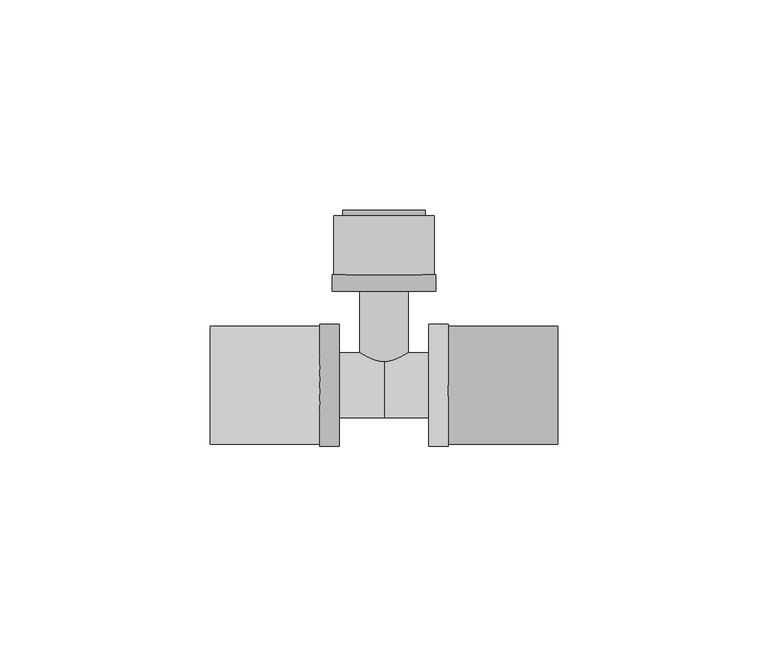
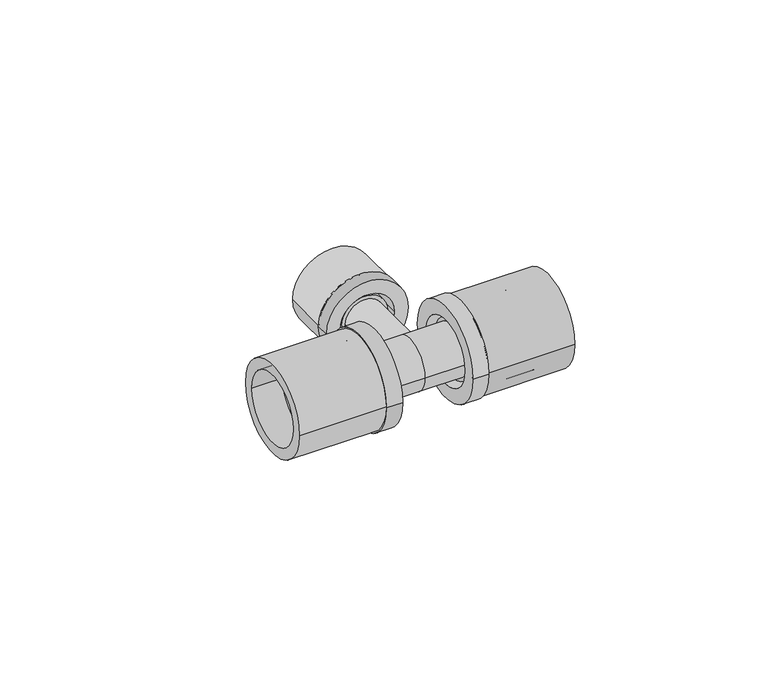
"""IFC4 building model written with IfcOpenShell, lengths in millimetres: pipe fitting geometry, FASTLOC_T-piece_LX : FSL T-Piece LX CZ."""

from ifc_helpers import new_model, si_unit, point, frame, origin, origin_2d, place, context, project, spatial, polyline, circle_curve, trimmed, segment, composite_curve, outline, extrude, source, transform, mapped, element, save
from ifc_brep_helpers import plane_surface, cylinder_surface, revolved_surface, advanced_brep


def pipe_fitting_5ae7c970(model_context):
    return source(origin(), model_context, "Body", "SolidModel", [
        extrude(outline(composite_curve([segment(trimmed(circle_curve(origin_2d(), 14.0), [point((-14.0, 0.0))], [point((14.0, 0.0))], False, "CARTESIAN"), True, "CONTINUOUS"), segment(trimmed(circle_curve(origin_2d(), 14.0), [point((14.0, 0.0))], [point((-14.0, 0.0))], False, "CARTESIAN"), True, "CONTINUOUS")], self_intersect=False), holes=[composite_curve([segment(trimmed(circle_curve(origin_2d(), 10.7), [point((-10.7, 0.0))], [point((10.7, 0.0))], True, "CARTESIAN"), True, "CONTINUOUS"), segment(trimmed(circle_curve(origin_2d(), 10.7), [point((10.7, 0.0))], [point((-10.7, 0.0))], True, "CARTESIAN"), True, "CONTINUOUS")], self_intersect=False)]), frame((15.3, 0.0, 0.0), z_axis=(1.0, 0.0, 0.0), x_axis=(0.0, 1.0, 0.0)), (0.0, 0.0, 1.0), 26.0),
        advanced_brep(
        [(15.3, 14.5, 0.0), (15.3, -14.5, 0.0), (10.6, -14.5, 0.0), (10.6, 14.5, 0.0), (32.3, 11.85, 0.0), (32.3, -11.85, 0.0), (15.3, -11.85, 0.0), (15.3, 11.85, 0.0), (10.6, 10.15, 0.0), (10.6, -10.15, 0.0), (32.3, -10.15, 0.0), (32.3, 10.15, 0.0)],
        [
            (0, 1, circle_curve(frame((15.3, 0.0, 0.0), z_axis=(-1.0, 0.0, 0.0), x_axis=(0.0, -1.0, 0.0)), 14.5)),
            (1, 2),
            (2, 3, circle_curve(frame((10.6, 0.0, 0.0), z_axis=(1.0, 0.0, 0.0), x_axis=(0.0, -1.0, 0.0)), 14.5)),
            (3, 0),
            (4, 5, circle_curve(frame((32.3, 0.0, 0.0), z_axis=(-1.0, 0.0, 0.0), x_axis=(0.0, -1.0, 0.0)), 11.85)),
            (5, 6),
            (6, 7, circle_curve(frame((15.3, 0.0, 0.0), z_axis=(1.0, 0.0, 0.0), x_axis=(0.0, -1.0, 0.0)), 11.85)),
            (7, 4),
            (8, 9, circle_curve(frame((10.6, 0.0, 0.0), z_axis=(-1.0, 0.0, 0.0), x_axis=(0.0, -1.0, 0.0)), 10.15)),
            (9, 10),
            (10, 11, circle_curve(frame((32.3, 0.0, 0.0), z_axis=(1.0, 0.0, 0.0), x_axis=(0.0, -1.0, 0.0)), 10.15)),
            (11, 8),
            (1, 0, circle_curve(frame((15.3, 0.0, 0.0), z_axis=(-1.0, 0.0, 0.0), x_axis=(0.0, 1.0, 0.0)), 14.5)),
            (3, 2, circle_curve(frame((10.6, 0.0, 0.0), z_axis=(1.0, 0.0, 0.0), x_axis=(0.0, 1.0, 0.0)), 14.5)),
            (6, 7, circle_curve(frame((15.3, 0.0, 0.0), z_axis=(-1.0, 0.0, 0.0), x_axis=(0.0, 1.0, 0.0)), 11.85)),
            (5, 4, circle_curve(frame((32.3, 0.0, 0.0), z_axis=(-1.0, 0.0, 0.0), x_axis=(0.0, 1.0, 0.0)), 11.85)),
            (10, 11, circle_curve(frame((32.3, 0.0, 0.0), z_axis=(-1.0, 0.0, 0.0), x_axis=(0.0, 1.0, 0.0)), 10.15)),
            (9, 8, circle_curve(frame((10.6, 0.0, 0.0), z_axis=(-1.0, 0.0, 0.0), x_axis=(0.0, 1.0, 0.0)), 10.15)),
        ],
        [
            cylinder_surface(frame((10.6, 0.0, 0.0), z_axis=(1.0, 0.0, 0.0), x_axis=(0.0, -1.0, 0.0)), 14.5),
            cylinder_surface(frame((10.6, 0.0, 0.0), z_axis=(1.0, 0.0, 0.0), x_axis=(0.0, -1.0, 0.0)), 11.85),
            revolved_surface(polyline([(32.3, -10.15, 0.0), (10.6, -10.15, 0.0)]), (10.6, 0.0, 0.0), (1.0, 0.0, 0.0)),
            cylinder_surface(frame((10.6, 0.0, 0.0), z_axis=(1.0, 0.0, 0.0), x_axis=(0.0, 1.0, 0.0)), 14.5),
            plane_surface(frame((15.3, 0.0, 0.0), z_axis=(1.0, 0.0, 0.0), x_axis=(0.0, 1.0, 0.0))),
            cylinder_surface(frame((10.6, 0.0, 0.0), z_axis=(1.0, 0.0, 0.0), x_axis=(0.0, 1.0, 0.0)), 11.85),
            plane_surface(frame((32.3, 0.0, 0.0), z_axis=(1.0, 0.0, 0.0), x_axis=(0.0, 1.0, 0.0))),
            revolved_surface(polyline([(32.3, 10.15, 0.0), (10.6, 10.15, 0.0)]), (10.6, 0.0, 0.0), (1.0, 0.0, 0.0)),
            plane_surface(frame((10.6, 0.0, 0.0), z_axis=(-1.0, 0.0, 0.0), x_axis=(0.0, 1.0, 0.0))),
        ],
        [
            (0, [[1, 2, 3, 4]]),
            (1, [[5, 6, 7, 8]]),
            (2, [[9, 10, 11, 12]]),
            (3, [[13, -4, 14, -2]]),
            (4, [[-13, -1], [15, -7]]),
            (5, [[16, -8, -15, -6]]),
            (6, [[-16, -5], [17, -11]]),
            (7, [[18, -12, -17, -10]]),
            (8, [[-14, -3], [-18, -9]]),
        ],
    ),
        extrude(outline(composite_curve([segment(trimmed(circle_curve(origin_2d(), 14.0), [point((14.0, 0.0))], [point((-14.0, 0.0))], False, "CARTESIAN"), True, "CONTINUOUS"), segment(trimmed(circle_curve(origin_2d(), 14.0), [point((-14.0, 0.0))], [point((14.0, 0.0))], False, "CARTESIAN"), True, "CONTINUOUS")], self_intersect=False), holes=[composite_curve([segment(trimmed(circle_curve(origin_2d(), 10.7), [point((10.7, 0.0))], [point((-10.7, 0.0))], True, "CARTESIAN"), True, "CONTINUOUS"), segment(trimmed(circle_curve(origin_2d(), 10.7), [point((-10.7, 0.0))], [point((10.7, 0.0))], True, "CARTESIAN"), True, "CONTINUOUS")], self_intersect=False)]), frame((-41.3, 0.0, 0.0), z_axis=(1.0, 0.0, 0.0), x_axis=(0.0, 1.0, 0.0)), (0.0, 0.0, 1.0), 26.0),
        advanced_brep(
        [(-15.3, -14.5, 0.0), (-15.3, 14.5, 0.0), (-10.6, 14.5, 0.0), (-10.6, -14.5, 0.0), (-32.3, -11.85, 0.0), (-32.3, 11.85, 0.0), (-15.3, 11.85, 0.0), (-15.3, -11.85, 0.0), (-10.6, -10.15, 0.0), (-10.6, 10.15, 0.0), (-32.3, 10.15, 0.0), (-32.3, -10.15, 0.0)],
        [
            (0, 1, circle_curve(frame((-15.3, 0.0, 0.0), z_axis=(1.0, 0.0, 0.0), x_axis=(0.0, 1.0, 0.0)), 14.5)),
            (1, 2),
            (2, 3, circle_curve(frame((-10.6, 0.0, 0.0), z_axis=(-1.0, 0.0, 0.0), x_axis=(0.0, 1.0, 0.0)), 14.5)),
            (3, 0),
            (4, 5, circle_curve(frame((-32.3, 0.0, 0.0), z_axis=(1.0, 0.0, 0.0), x_axis=(0.0, 1.0, 0.0)), 11.85)),
            (5, 6),
            (6, 7, circle_curve(frame((-15.3, 0.0, 0.0), z_axis=(-1.0, 0.0, 0.0), x_axis=(0.0, 1.0, 0.0)), 11.85)),
            (7, 4),
            (8, 9, circle_curve(frame((-10.6, 0.0, 0.0), z_axis=(1.0, 0.0, 0.0), x_axis=(0.0, 1.0, 0.0)), 10.15)),
            (9, 10),
            (10, 11, circle_curve(frame((-32.3, 0.0, 0.0), z_axis=(-1.0, 0.0, 0.0), x_axis=(0.0, 1.0, 0.0)), 10.15)),
            (11, 8),
            (1, 0, circle_curve(frame((-15.3, 0.0, 0.0), z_axis=(1.0, 0.0, 0.0), x_axis=(0.0, -1.0, 0.0)), 14.5)),
            (3, 2, circle_curve(frame((-10.6, 0.0, 0.0), z_axis=(-1.0, 0.0, 0.0), x_axis=(0.0, -1.0, 0.0)), 14.5)),
            (6, 7, circle_curve(frame((-15.3, 0.0, 0.0), z_axis=(1.0, 0.0, 0.0), x_axis=(0.0, -1.0, 0.0)), 11.85)),
            (5, 4, circle_curve(frame((-32.3, 0.0, 0.0), z_axis=(1.0, 0.0, 0.0), x_axis=(0.0, -1.0, 0.0)), 11.85)),
            (10, 11, circle_curve(frame((-32.3, 0.0, 0.0), z_axis=(1.0, 0.0, 0.0), x_axis=(0.0, -1.0, 0.0)), 10.15)),
            (9, 8, circle_curve(frame((-10.6, 0.0, 0.0), z_axis=(1.0, 0.0, 0.0), x_axis=(0.0, -1.0, 0.0)), 10.15)),
        ],
        [
            cylinder_surface(frame((-10.6, 0.0, 0.0), z_axis=(-1.0, 0.0, 0.0), x_axis=(0.0, 1.0, 0.0)), 14.5),
            cylinder_surface(frame((-10.6, 0.0, 0.0), z_axis=(-1.0, 0.0, 0.0), x_axis=(0.0, 1.0, 0.0)), 11.85),
            revolved_surface(polyline([(-32.3, 10.15, 0.0), (-10.6, 10.15, 0.0)]), (-10.6, 0.0, 0.0), (-1.0, 0.0, 0.0)),
            cylinder_surface(frame((-10.6, 0.0, 0.0), z_axis=(-1.0, 0.0, 0.0), x_axis=(0.0, -1.0, 0.0)), 14.5),
            plane_surface(frame((-15.3, 0.0, 0.0), z_axis=(-1.0, 0.0, 0.0), x_axis=(0.0, -1.0, 0.0))),
            cylinder_surface(frame((-10.6, 0.0, 0.0), z_axis=(-1.0, 0.0, 0.0), x_axis=(0.0, -1.0, 0.0)), 11.85),
            plane_surface(frame((-32.3, 0.0, 0.0), z_axis=(-1.0, 0.0, 0.0), x_axis=(0.0, -1.0, 0.0))),
            revolved_surface(polyline([(-32.3, -10.15, 0.0), (-10.6, -10.15, 0.0)]), (-10.6, 0.0, 0.0), (-1.0, 0.0, 0.0)),
            plane_surface(frame((-10.6, 0.0, 0.0), z_axis=(1.0, 0.0, 0.0), x_axis=(0.0, -1.0, 0.0))),
        ],
        [
            (0, [[1, 2, 3, 4]]),
            (1, [[5, 6, 7, 8]]),
            (2, [[9, 10, 11, 12]]),
            (3, [[13, -4, 14, -2]]),
            (4, [[-13, -1], [15, -7]]),
            (5, [[16, -8, -15, -6]]),
            (6, [[-16, -5], [17, -11]]),
            (7, [[18, -12, -17, -10]]),
            (8, [[-14, -3], [-18, -9]]),
        ],
    ),
        extrude(outline(composite_curve([segment(trimmed(circle_curve(origin_2d(), 12.0), [point((0.0, 12.0))], [point((0.0, -12.0))], False, "CARTESIAN"), True, "CONTINUOUS"), segment(trimmed(circle_curve(origin_2d(), 12.0), [point((0.0, -12.0))], [point((0.0, 12.0))], False, "CARTESIAN"), True, "CONTINUOUS")], self_intersect=False), holes=[composite_curve([segment(trimmed(circle_curve(origin_2d(), 8.85), [point((0.0, 8.85))], [point((0.0, -8.85))], True, "CARTESIAN"), True, "CONTINUOUS"), segment(trimmed(circle_curve(origin_2d(), 8.85), [point((0.0, -8.85))], [point((0.0, 8.85))], True, "CARTESIAN"), True, "CONTINUOUS")], self_intersect=False)]), frame((0.0, 26.3, 0.0), z_axis=(0.0, 1.0, 0.0), x_axis=(0.0, 0.0, 1.0)), (0.0, 0.0, 1.0), 14.0),
        advanced_brep(
        [(-12.35, 26.3, 0.0), (12.35, 26.3, 0.0), (12.35, 22.3, 0.0), (-12.35, 22.3, 0.0), (-9.85, 41.6, 0.0), (9.85, 41.6, 0.0), (9.85, 26.3, 0.0), (-9.85, 26.3, 0.0), (-8.15, 22.3, 0.0), (8.15, 22.3, 0.0), (8.15, 41.6, 0.0), (-8.15, 41.6, 0.0)],
        [
            (0, 1, circle_curve(frame((0.0, 26.3, 0.0), z_axis=(0.0, -1.0, 0.0), x_axis=(1.0, 0.0, 0.0)), 12.35)),
            (1, 2),
            (2, 3, circle_curve(frame((0.0, 22.3, 0.0), z_axis=(0.0, 1.0, 0.0), x_axis=(1.0, 0.0, 0.0)), 12.35)),
            (3, 0),
            (4, 5, circle_curve(frame((0.0, 41.6, 0.0), z_axis=(0.0, -1.0, 0.0), x_axis=(1.0, 0.0, 0.0)), 9.85)),
            (5, 6),
            (6, 7, circle_curve(frame((0.0, 26.3, 0.0), z_axis=(0.0, 1.0, 0.0), x_axis=(1.0, 0.0, 0.0)), 9.85)),
            (7, 4),
            (8, 9, circle_curve(frame((0.0, 22.3, 0.0), z_axis=(0.0, -1.0, 0.0), x_axis=(1.0, 0.0, 0.0)), 8.15)),
            (9, 10),
            (10, 11, circle_curve(frame((0.0, 41.6, 0.0), z_axis=(0.0, 1.0, 0.0), x_axis=(1.0, 0.0, 0.0)), 8.15)),
            (11, 8),
            (1, 0, circle_curve(frame((0.0, 26.3, 0.0), z_axis=(0.0, -1.0, 0.0), x_axis=(-1.0, 0.0, 0.0)), 12.35)),
            (3, 2, circle_curve(frame((0.0, 22.3, 0.0), z_axis=(0.0, 1.0, 0.0), x_axis=(-1.0, 0.0, 0.0)), 12.35)),
            (6, 7, circle_curve(frame((0.0, 26.3, 0.0), z_axis=(0.0, -1.0, 0.0), x_axis=(-1.0, 0.0, 0.0)), 9.85)),
            (5, 4, circle_curve(frame((0.0, 41.6, 0.0), z_axis=(0.0, -1.0, 0.0), x_axis=(-1.0, 0.0, 0.0)), 9.85)),
            (10, 11, circle_curve(frame((0.0, 41.6, 0.0), z_axis=(0.0, -1.0, 0.0), x_axis=(-1.0, 0.0, 0.0)), 8.15)),
            (9, 8, circle_curve(frame((0.0, 22.3, 0.0), z_axis=(0.0, -1.0, 0.0), x_axis=(-1.0, 0.0, 0.0)), 8.15)),
        ],
        [
            cylinder_surface(frame((0.0, 22.3, 0.0), z_axis=(0.0, 1.0, 0.0), x_axis=(1.0, 0.0, 0.0)), 12.35),
            cylinder_surface(frame((0.0, 22.3, 0.0), z_axis=(0.0, 1.0, 0.0), x_axis=(1.0, 0.0, 0.0)), 9.85),
            revolved_surface(polyline([(8.15, 41.6, 0.0), (8.15, 22.3, 0.0)]), (0.0, 22.3, 0.0), (0.0, 1.0, 0.0)),
            cylinder_surface(frame((0.0, 22.3, 0.0), z_axis=(0.0, 1.0, 0.0), x_axis=(-1.0, 0.0, 0.0)), 12.35),
            plane_surface(frame((0.0, 26.3, 0.0), z_axis=(0.0, 1.0, 0.0), x_axis=(-1.0, 0.0, 0.0))),
            cylinder_surface(frame((0.0, 22.3, 0.0), z_axis=(0.0, 1.0, 0.0), x_axis=(-1.0, 0.0, 0.0)), 9.85),
            plane_surface(frame((0.0, 41.6, 0.0), z_axis=(0.0, 1.0, 0.0), x_axis=(-1.0, 0.0, 0.0))),
            revolved_surface(polyline([(-8.15, 41.6, 0.0), (-8.15, 22.3, 0.0)]), (0.0, 22.3, 0.0), (0.0, 1.0, 0.0)),
            plane_surface(frame((0.0, 22.3, 0.0), z_axis=(0.0, -1.0, 0.0), x_axis=(-1.0, 0.0, 0.0))),
        ],
        [
            (0, [[1, 2, 3, 4]]),
            (1, [[5, 6, 7, 8]]),
            (2, [[9, 10, 11, 12]]),
            (3, [[13, -4, 14, -2]]),
            (4, [[-13, -1], [15, -7]]),
            (5, [[16, -8, -15, -6]]),
            (6, [[-16, -5], [17, -11]]),
            (7, [[18, -12, -17, -10]]),
            (8, [[-14, -3], [-18, -9]]),
        ],
    ),
        advanced_brep(
        [(0.0, 7.75, 0.0), (0.0, -7.75, 0.0), (-12.63, -7.75, 0.0), (-12.63, 7.75, 0.0), (12.63, 7.75, 0.0), (12.63, -7.75, 0.0), (15.3, 8.8, 0.0), (15.3, -8.8, 0.0), (12.63, -8.8, 0.0), (12.63, 8.8, 0.0), (32.7, 7.75, 0.0), (32.7, -7.75, 0.0), (15.3, -7.75, 0.0), (15.3, 7.75, 0.0), (-15.3, 7.75, 0.0), (-15.3, -7.75, 0.0), (-32.7, -7.75, 0.0), (-32.7, 7.75, 0.0), (-12.63, 8.8, 0.0), (-12.63, -8.8, 0.0), (-15.3, -8.8, 0.0), (-15.3, 8.8, 0.0), (32.7, -5.75, 0.0), (32.7, 5.75, 0.0), (-32.7, 5.75, 0.0), (-32.7, -5.75, 0.0), (0.0, 5.75, 0.0), (0.0, -5.75, 0.0)],
        [
            (0, 1, circle_curve(frame((0.0, 0.0, 0.0), z_axis=(-1.0, 0.0, 0.0), x_axis=(0.0, -1.0, 0.0)), 7.75)),
            (1, 2),
            (2, 3, circle_curve(frame((-12.63, 0.0, 0.0), z_axis=(1.0, 0.0, 0.0), x_axis=(0.0, -1.0, 0.0)), 7.75)),
            (3, 0),
            (4, 5, circle_curve(frame((12.63, 0.0, 0.0), z_axis=(-1.0, 0.0, 0.0), x_axis=(0.0, -1.0, 0.0)), 7.75)),
            (5, 1),
            (0, 4),
            (6, 7, circle_curve(frame((15.3, 0.0, 0.0), z_axis=(-1.0, 0.0, 0.0), x_axis=(0.0, -1.0, 0.0)), 8.8)),
            (7, 8),
            (8, 9, circle_curve(frame((12.63, 0.0, 0.0), z_axis=(1.0, 0.0, 0.0), x_axis=(0.0, -1.0, 0.0)), 8.8)),
            (9, 6),
            (10, 11, circle_curve(frame((32.7, 0.0, 0.0), z_axis=(-1.0, 0.0, 0.0), x_axis=(0.0, -1.0, 0.0)), 7.75)),
            (11, 12),
            (12, 13, circle_curve(frame((15.3, 0.0, 0.0), z_axis=(1.0, 0.0, 0.0), x_axis=(0.0, -1.0, 0.0)), 7.75)),
            (13, 10),
            (14, 15, circle_curve(frame((-15.3, 0.0, 0.0), z_axis=(-1.0, 0.0, 0.0), x_axis=(0.0, -1.0, 0.0)), 7.75)),
            (15, 16),
            (16, 17, circle_curve(frame((-32.7, 0.0, 0.0), z_axis=(1.0, 0.0, 0.0), x_axis=(0.0, -1.0, 0.0)), 7.75)),
            (17, 14),
            (18, 19, circle_curve(frame((-12.63, 0.0, 0.0), z_axis=(-1.0, 0.0, 0.0), x_axis=(0.0, -1.0, 0.0)), 8.8)),
            (19, 20),
            (20, 21, circle_curve(frame((-15.3, 0.0, 0.0), z_axis=(1.0, 0.0, 0.0), x_axis=(0.0, -1.0, 0.0)), 8.8)),
            (21, 18),
            (18, 19, circle_curve(frame((-12.63, 0.0, 0.0), z_axis=(1.0, 0.0, 0.0), x_axis=(0.0, 1.0, 0.0)), 8.8)),
            (2, 3, circle_curve(frame((-12.63, 0.0, 0.0), z_axis=(-1.0, 0.0, 0.0), x_axis=(0.0, 1.0, 0.0)), 7.75)),
            (1, 0, circle_curve(frame((0.0, 0.0, 0.0), z_axis=(-1.0, 0.0, 0.0), x_axis=(0.0, 1.0, 0.0)), 7.75)),
            (5, 4, circle_curve(frame((12.63, 0.0, 0.0), z_axis=(-1.0, 0.0, 0.0), x_axis=(0.0, 1.0, 0.0)), 7.75)),
            (8, 9, circle_curve(frame((12.63, 0.0, 0.0), z_axis=(-1.0, 0.0, 0.0), x_axis=(0.0, 1.0, 0.0)), 8.8)),
            (7, 6, circle_curve(frame((15.3, 0.0, 0.0), z_axis=(-1.0, 0.0, 0.0), x_axis=(0.0, 1.0, 0.0)), 8.8)),
            (12, 13, circle_curve(frame((15.3, 0.0, 0.0), z_axis=(-1.0, 0.0, 0.0), x_axis=(0.0, 1.0, 0.0)), 7.75)),
            (11, 10, circle_curve(frame((32.7, 0.0, 0.0), z_axis=(-1.0, 0.0, 0.0), x_axis=(0.0, 1.0, 0.0)), 7.75)),
            (22, 23, circle_curve(frame((32.7, 0.0, 0.0), z_axis=(-1.0, 0.0, 0.0), x_axis=(0.0, 1.0, 0.0)), 5.75)),
            (23, 22, circle_curve(frame((32.7, 0.0, 0.0), z_axis=(-1.0, 0.0, 0.0), x_axis=(0.0, -1.0, 0.0)), 5.75)),
            (16, 17, circle_curve(frame((-32.7, 0.0, 0.0), z_axis=(-1.0, 0.0, 0.0), x_axis=(0.0, 1.0, 0.0)), 7.75)),
            (24, 25, circle_curve(frame((-32.7, 0.0, 0.0), z_axis=(1.0, 0.0, 0.0), x_axis=(0.0, 1.0, 0.0)), 5.75)),
            (25, 24, circle_curve(frame((-32.7, 0.0, 0.0), z_axis=(1.0, 0.0, 0.0), x_axis=(0.0, -1.0, 0.0)), 5.75)),
            (15, 14, circle_curve(frame((-15.3, 0.0, 0.0), z_axis=(-1.0, 0.0, 0.0), x_axis=(0.0, 1.0, 0.0)), 7.75)),
            (20, 21, circle_curve(frame((-15.3, 0.0, 0.0), z_axis=(-1.0, 0.0, 0.0), x_axis=(0.0, 1.0, 0.0)), 8.8)),
            (26, 27, circle_curve(frame((0.0, 0.0, 0.0), z_axis=(-1.0, 0.0, 0.0), x_axis=(0.0, -1.0, 0.0)), 5.75)),
            (27, 22),
            (23, 26),
            (25, 27),
            (26, 24),
            (27, 26, circle_curve(frame((0.0, 0.0, 0.0), z_axis=(-1.0, 0.0, 0.0), x_axis=(0.0, 1.0, 0.0)), 5.75)),
        ],
        [
            cylinder_surface(frame((0.0, 0.0, 0.0), z_axis=(1.0, 0.0, 0.0), x_axis=(0.0, -1.0, 0.0)), 7.75),
            cylinder_surface(frame((0.0, 0.0, 0.0), z_axis=(1.0, 0.0, 0.0), x_axis=(0.0, -1.0, 0.0)), 8.8),
            plane_surface(frame((-12.63, 0.0, 0.0), z_axis=(1.0, 0.0, 0.0), x_axis=(0.0, 1.0, 0.0))),
            cylinder_surface(frame((0.0, 0.0, 0.0), z_axis=(1.0, 0.0, 0.0), x_axis=(0.0, 1.0, 0.0)), 7.75),
            plane_surface(frame((12.63, 0.0, 0.0), z_axis=(-1.0, 0.0, 0.0), x_axis=(0.0, 1.0, 0.0))),
            cylinder_surface(frame((0.0, 0.0, 0.0), z_axis=(1.0, 0.0, 0.0), x_axis=(0.0, 1.0, 0.0)), 8.8),
            plane_surface(frame((15.3, 0.0, 0.0), z_axis=(1.0, 0.0, 0.0), x_axis=(0.0, 1.0, 0.0))),
            plane_surface(frame((32.7, 0.0, 0.0), z_axis=(1.0, 0.0, 0.0), x_axis=(0.0, 1.0, 0.0))),
            plane_surface(frame((-32.7, 0.0, 0.0), z_axis=(-1.0, 0.0, 0.0), x_axis=(0.0, 1.0, 0.0))),
            plane_surface(frame((-15.3, 0.0, 0.0), z_axis=(-1.0, 0.0, 0.0), x_axis=(0.0, 1.0, 0.0))),
            revolved_surface(polyline([(32.7, -5.75, 0.0), (0.0, -5.75, 0.0)]), (0.0, 0.0, 0.0), (1.0, 0.0, 0.0)),
            revolved_surface(polyline([(0.0, -5.75, 0.0), (-32.7, -5.75, 0.0)]), (0.0, 0.0, 0.0), (1.0, 0.0, 0.0)),
            revolved_surface(polyline([(32.7, 5.75, 0.0), (0.0, 5.75, 0.0)]), (0.0, 0.0, 0.0), (1.0, 0.0, 0.0)),
            revolved_surface(polyline([(0.0, 5.75, 0.0), (-32.7, 5.75, 0.0)]), (0.0, 0.0, 0.0), (1.0, 0.0, 0.0)),
        ],
        [
            (0, [[1, 2, 3, 4]]),
            (0, [[5, 6, -1, 7]]),
            (1, [[8, 9, 10, 11]]),
            (0, [[12, 13, 14, 15]]),
            (0, [[16, 17, 18, 19]]),
            (1, [[20, 21, 22, 23]]),
            (2, [[24, -20], [25, -3]]),
            (3, [[26, -4, -25, -2]]),
            (3, [[27, -7, -26, -6]]),
            (4, [[28, -10], [-27, -5]]),
            (5, [[29, -11, -28, -9]]),
            (6, [[-29, -8], [30, -14]]),
            (3, [[31, -15, -30, -13]]),
            (7, [[-31, -12], [32, 33]]),
            (8, [[34, -18], [35, 36]]),
            (3, [[37, -19, -34, -17]]),
            (9, [[38, -22], [-37, -16]]),
            (5, [[-24, -23, -38, -21]]),
            (10, [[39, 40, -33, 41]]),
            (11, [[-36, 42, -39, 43]]),
            (12, [[44, -41, -32, -40]]),
            (13, [[-35, -43, -44, -42]]),
        ],
    ),
        advanced_brep(
        [(3.95, 41.3, 0.0), (-3.95, 41.3, 0.0), (-3.95, 0.0, 0.0), (3.95, 0.0, 0.0), (5.8, 0.0, 0.0), (-5.8, 0.0, 0.0), (-5.8, 23.59, 0.0), (5.8, 23.59, 0.0), (6.9, 23.59, 0.0), (-6.9, 23.59, 0.0), (-6.9, 26.3, 0.0), (6.9, 26.3, 0.0), (5.8, 26.3, 0.0), (-5.8, 26.3, 0.0), (-5.8, 41.3, 0.0), (5.8, 41.3, 0.0)],
        [
            (0, 1, circle_curve(frame((0.0, 41.3, 0.0), z_axis=(0.0, 1.0, 0.0), x_axis=(-1.0, 0.0, 0.0)), 3.95)),
            (1, 2),
            (2, 3, circle_curve(frame((0.0, 0.0, 0.0), z_axis=(0.0, -1.0, 0.0), x_axis=(-1.0, 0.0, 0.0)), 3.95)),
            (3, 0),
            (4, 5, circle_curve(frame((0.0, 0.0, 0.0), z_axis=(0.0, 1.0, 0.0), x_axis=(-1.0, 0.0, 0.0)), 5.8)),
            (5, 6),
            (6, 7, circle_curve(frame((0.0, 23.59, 0.0), z_axis=(0.0, -1.0, 0.0), x_axis=(-1.0, 0.0, 0.0)), 5.8)),
            (7, 4),
            (8, 9, circle_curve(frame((0.0, 23.59, 0.0), z_axis=(0.0, 1.0, 0.0), x_axis=(-1.0, 0.0, 0.0)), 6.9)),
            (9, 10),
            (10, 11, circle_curve(frame((0.0, 26.3, 0.0), z_axis=(0.0, -1.0, 0.0), x_axis=(-1.0, 0.0, 0.0)), 6.9)),
            (11, 8),
            (12, 13, circle_curve(frame((0.0, 26.3, 0.0), z_axis=(0.0, 1.0, 0.0), x_axis=(-1.0, 0.0, 0.0)), 5.8)),
            (13, 14),
            (14, 15, circle_curve(frame((0.0, 41.3, 0.0), z_axis=(0.0, -1.0, 0.0), x_axis=(-1.0, 0.0, 0.0)), 5.8)),
            (15, 12),
            (1, 0, circle_curve(frame((0.0, 41.3, 0.0), z_axis=(0.0, 1.0, 0.0), x_axis=(1.0, 0.0, 0.0)), 3.95)),
            (3, 2, circle_curve(frame((0.0, 0.0, 0.0), z_axis=(0.0, -1.0, 0.0), x_axis=(1.0, 0.0, 0.0)), 3.95)),
            (4, 5, circle_curve(frame((0.0, 0.0, 0.0), z_axis=(0.0, -1.0, 0.0), x_axis=(1.0, 0.0, 0.0)), 5.8)),
            (7, 6, circle_curve(frame((0.0, 23.59, 0.0), z_axis=(0.0, -1.0, 0.0), x_axis=(1.0, 0.0, 0.0)), 5.8)),
            (8, 9, circle_curve(frame((0.0, 23.59, 0.0), z_axis=(0.0, -1.0, 0.0), x_axis=(1.0, 0.0, 0.0)), 6.9)),
            (11, 10, circle_curve(frame((0.0, 26.3, 0.0), z_axis=(0.0, -1.0, 0.0), x_axis=(1.0, 0.0, 0.0)), 6.9)),
            (12, 13, circle_curve(frame((0.0, 26.3, 0.0), z_axis=(0.0, -1.0, 0.0), x_axis=(1.0, 0.0, 0.0)), 5.8)),
            (15, 14, circle_curve(frame((0.0, 41.3, 0.0), z_axis=(0.0, -1.0, 0.0), x_axis=(1.0, 0.0, 0.0)), 5.8)),
        ],
        [
            revolved_surface(polyline([(-3.95, 0.0, 0.0), (-3.95, 41.3, 0.0)]), (0.0, 0.0, 0.0), (0.0, -1.0, 0.0)),
            cylinder_surface(frame((0.0, 0.0, 0.0), z_axis=(0.0, -1.0, 0.0), x_axis=(-1.0, 0.0, 0.0)), 5.8),
            cylinder_surface(frame((0.0, 0.0, 0.0), z_axis=(0.0, -1.0, 0.0), x_axis=(-1.0, 0.0, 0.0)), 6.9),
            revolved_surface(polyline([(3.95, 0.0, 0.0), (3.95, 41.3, 0.0)]), (0.0, 0.0, 0.0), (0.0, -1.0, 0.0)),
            plane_surface(frame((0.0, 0.0, 0.0), z_axis=(0.0, -1.0, 0.0), x_axis=(1.0, 0.0, 0.0))),
            cylinder_surface(frame((0.0, 0.0, 0.0), z_axis=(0.0, -1.0, 0.0), x_axis=(1.0, 0.0, 0.0)), 5.8),
            plane_surface(frame((0.0, 23.59, 0.0), z_axis=(0.0, -1.0, 0.0), x_axis=(1.0, 0.0, 0.0))),
            cylinder_surface(frame((0.0, 0.0, 0.0), z_axis=(0.0, -1.0, 0.0), x_axis=(1.0, 0.0, 0.0)), 6.9),
            plane_surface(frame((0.0, 26.3, 0.0), z_axis=(0.0, 1.0, 0.0), x_axis=(1.0, 0.0, 0.0))),
            plane_surface(frame((0.0, 41.3, 0.0), z_axis=(0.0, 1.0, 0.0), x_axis=(1.0, 0.0, 0.0))),
        ],
        [
            (0, [[1, 2, 3, 4]]),
            (1, [[5, 6, 7, 8]]),
            (2, [[9, 10, 11, 12]]),
            (1, [[13, 14, 15, 16]]),
            (3, [[17, -4, 18, -2]]),
            (4, [[19, -5], [-18, -3]]),
            (5, [[-19, -8, 20, -6]]),
            (6, [[21, -9], [-20, -7]]),
            (7, [[-21, -12, 22, -10]]),
            (8, [[-22, -11], [23, -13]]),
            (5, [[-23, -16, 24, -14]]),
            (9, [[-24, -15], [-17, -1]]),
        ],
    ),
    ])


if __name__ == "__main__":
    model = new_model("IFC4")
    model_context = context("Model", 3, world=origin())
    ifc_project = project(units=[si_unit("LENGTHUNIT", "METRE", prefix="MILLI")], contexts=[model_context])
    site = spatial("IfcSite", under=ifc_project)
    building = spatial("IfcBuilding", under=site)
    placement = place(None, origin())
    pipe_fitting_shape = pipe_fitting_5ae7c970(model_context)
    element("IfcPipeFitting", 1, ObjectType="FASTLOC_T-piece_LX : FSL T-Piece LX CZ", at=placement, inside=building, context=model_context, shape_type="MappedRepresentation", body=[
        mapped(pipe_fitting_shape, transform((0.0, 0.0, 0.0), x_axis=(1.0, 0.0, 0.0), y_axis=(0.0, 1.0, 0.0), z_axis=(0.0, 0.0, 1.0))),
    ])
    save(model, "model.ifc")
